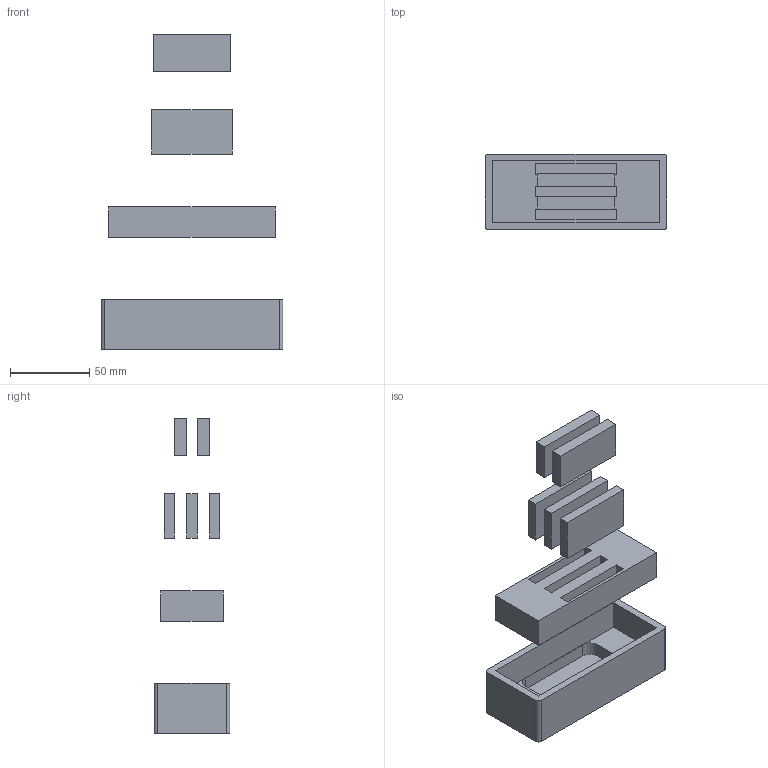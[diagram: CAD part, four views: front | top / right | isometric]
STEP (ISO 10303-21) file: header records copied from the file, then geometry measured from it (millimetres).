
FILE_DESCRIPTION (( 'STEP AP214' ), '1' );
FILE_NAME ('AC2204.STEP', '2017-05-24T13:32:10', ( '' ), ( '' ), 'SwSTEP 2.0', 'SolidWorks 2015', '' );
FILE_SCHEMA (( 'AUTOMOTIVE_DESIGN' ));
Length unit declared in the file: inch
Products named in the file (9): 8011681 11681; 2039 THIN BAR; AC2203 AC2204 WD40; AC2204; 2039 CERAMIC; 900072 STKR ID SML; 2039 EPOXY
Assembly tree (8 placements, depth 2):
  AC2203 AC2204 WD40
  AC2204
    8011681 11681
    2039 THIN BAR
    2039 THIN BAR
    2039 THIN BAR
    2039 EPOXY
    900072 STKR ID SML
    2039 CERAMIC  x2
Bounding box: 114.76 x 47.75 x 199.23 mm (x, y, z)
Volume: 179407.8 mm3; surface area: 66917.3 mm2
Topology: 8 solids, 8 shells, 561 faces, 1455 edges, 970 vertices
Faces by surface type: plane 388, bspline 161, cylinder 12
Entity records: 27498 total; most frequent: CARTESIAN_POINT 14004, ORIENTED_EDGE 2886, DIRECTION 1955, EDGE_CURVE 1443, LINE 1097, VECTOR 1097, VERTEX_POINT 962, EDGE_LOOP 621
